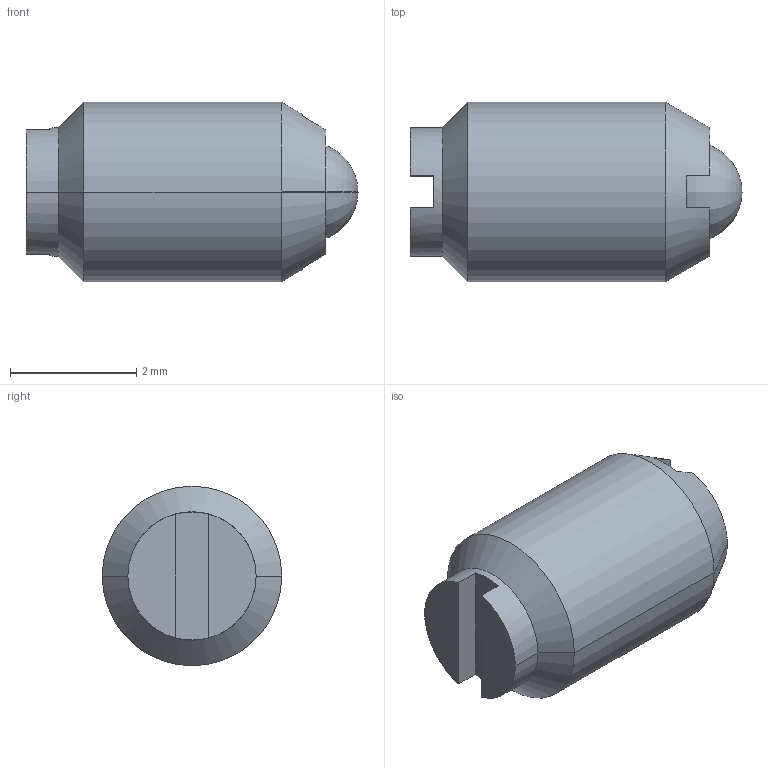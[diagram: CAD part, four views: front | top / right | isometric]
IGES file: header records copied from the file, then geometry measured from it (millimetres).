
Start section:  PTC IGES file: b46-3d.igs
Global section: file name: b46-3d.igs; native system: Pro/ENGINEER by Parametric Technology Corporation; preprocessor: 2002350; author: chant; organization: Unknown; date: 061026.154554; units: inch
Bounding box: 5.26 x 2.84 x 2.84 mm (x, y, z)
Surface area: 66.4 mm2 (no closed solid volume)
Topology: 0 solids, 0 shells, 27 faces, 193 edges, 241 vertices
Faces by surface type: revolution 17, bspline 10
